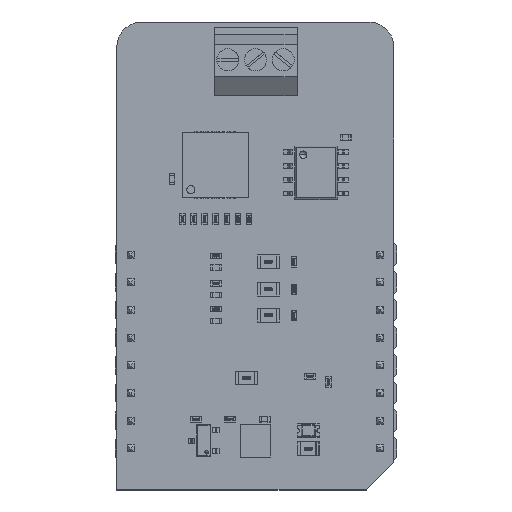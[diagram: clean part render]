
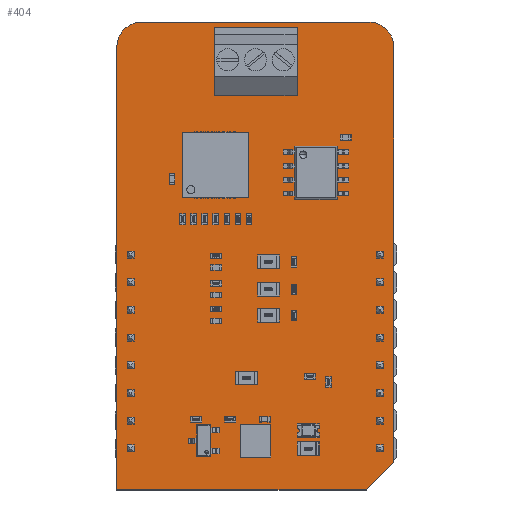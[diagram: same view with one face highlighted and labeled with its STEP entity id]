
A CAD part, top view. The second image highlights one B-rep face of the part: STEP entity #404.
In plain terms, the highlighted planar face has unit normal (0, 0, 1).
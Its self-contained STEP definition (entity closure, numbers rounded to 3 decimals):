
#175 = VERTEX_POINT('',#176);
#176 = CARTESIAN_POINT('',(-1.27,-3.81,0.));
#182 = EDGE_CURVE('',#175,#183,#185,.T.);
#183 = VERTEX_POINT('',#184);
#184 = CARTESIAN_POINT('',(-1.27,36.83,0.));
#185 = LINE('',#186,#187);
#186 = CARTESIAN_POINT('',(-1.27,-3.81,0.));
#187 = VECTOR('',#188,1.);
#188 = DIRECTION('',(0.,1.,0.));
#213 = EDGE_CURVE('',#183,#214,#216,.T.);
#214 = VERTEX_POINT('',#215);
#215 = CARTESIAN_POINT('',(1.016,39.116,0.));
#216 = CIRCLE('',#217,2.288);
#217 = AXIS2_PLACEMENT_3D('',#218,#219,#220);
#218 = CARTESIAN_POINT('',(1.018,36.828,0.));
#219 = DIRECTION('',(0.,0.,-1.));
#220 = DIRECTION('',(-1.,0.001,0.));
#246 = EDGE_CURVE('',#214,#247,#249,.T.);
#247 = VERTEX_POINT('',#248);
#248 = CARTESIAN_POINT('',(21.844,39.116,0.));
#249 = LINE('',#250,#251);
#250 = CARTESIAN_POINT('',(1.016,39.116,0.));
#251 = VECTOR('',#252,1.);
#252 = DIRECTION('',(1.,0.,0.));
#277 = EDGE_CURVE('',#247,#278,#280,.T.);
#278 = VERTEX_POINT('',#279);
#279 = CARTESIAN_POINT('',(24.13,36.83,0.));
#280 = CIRCLE('',#281,2.288);
#281 = AXIS2_PLACEMENT_3D('',#282,#283,#284);
#282 = CARTESIAN_POINT('',(21.842,36.828,0.));
#283 = DIRECTION('',(0.,0.,-1.));
#284 = DIRECTION('',(0.001,1.,0.));
#310 = EDGE_CURVE('',#278,#311,#313,.T.);
#311 = VERTEX_POINT('',#312);
#312 = CARTESIAN_POINT('',(24.13,-1.27,0.));
#313 = LINE('',#314,#315);
#314 = CARTESIAN_POINT('',(24.13,36.83,0.));
#315 = VECTOR('',#316,1.);
#316 = DIRECTION('',(0.,-1.,0.));
#341 = EDGE_CURVE('',#311,#342,#344,.T.);
#342 = VERTEX_POINT('',#343);
#343 = CARTESIAN_POINT('',(21.59,-3.81,0.));
#344 = LINE('',#345,#346);
#345 = CARTESIAN_POINT('',(24.13,-1.27,0.));
#346 = VECTOR('',#347,1.);
#347 = DIRECTION('',(-0.707,-0.707,0.));
#372 = EDGE_CURVE('',#342,#175,#373,.T.);
#373 = LINE('',#374,#375);
#374 = CARTESIAN_POINT('',(21.59,-3.81,0.));
#375 = VECTOR('',#376,1.);
#376 = DIRECTION('',(-1.,0.,0.));
#404 = ADVANCED_FACE('',(#405),#414,.T.);
#405 = FACE_BOUND('',#406,.F.);
#406 = EDGE_LOOP('',(#407,#408,#409,#410,#411,#412,#413));
#407 = ORIENTED_EDGE('',*,*,#182,.T.);
#408 = ORIENTED_EDGE('',*,*,#213,.T.);
#409 = ORIENTED_EDGE('',*,*,#246,.T.);
#410 = ORIENTED_EDGE('',*,*,#277,.T.);
#411 = ORIENTED_EDGE('',*,*,#310,.T.);
#412 = ORIENTED_EDGE('',*,*,#341,.T.);
#413 = ORIENTED_EDGE('',*,*,#372,.T.);
#414 = PLANE('',#415);
#415 = AXIS2_PLACEMENT_3D('',#416,#417,#418);
#416 = CARTESIAN_POINT('',(-1.27,-3.81,0.));
#417 = DIRECTION('',(0.,0.,1.));
#418 = DIRECTION('',(1.,0.,0.));
